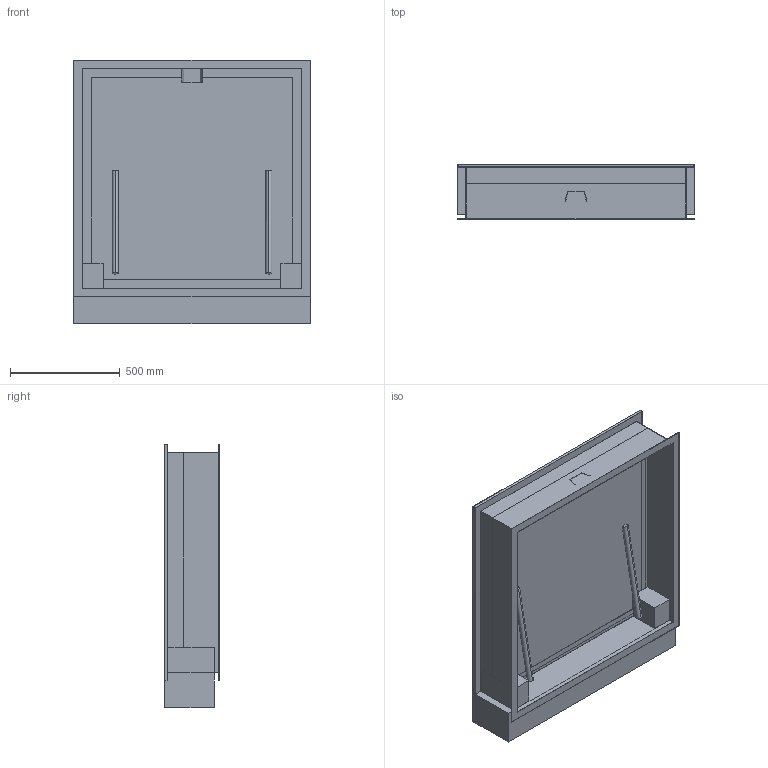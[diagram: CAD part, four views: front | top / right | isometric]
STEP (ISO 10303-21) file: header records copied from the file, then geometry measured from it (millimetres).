
FILE_DESCRIPTION((''),'2;1');
FILE_NAME('51581647','2021-02-16T13:58:23',('gm'),('HUBER SE'),'CREO PARAMETRIC BY PTC INC, 2019224','CREO PARAMETRIC BY PTC INC, 2019224','');
FILE_SCHEMA(('AUTOMOTIVE_DESIGN { 1 0 10303 214 1 1 1 1 }'));
Length unit declared in the file: millimetre
Products named in the file (1): 51581647
Bounding box: 1078 x 250 x 1200 mm (x, y, z)
Volume: 127199405.5 mm3; surface area: 5763830 mm2
Topology: 1 solids, 1 shells, 92 faces, 240 edges, 158 vertices
Faces by surface type: plane 81, cylinder 11
Entity records: 3487 total; most frequent: CARTESIAN_POINT 560, ORIENTED_EDGE 480, DIRECTION 446, EDGE_CURVE 240, VECTOR 210, LINE 210, VERTEX_POINT 158, AXIS2_PLACEMENT_3D 118
